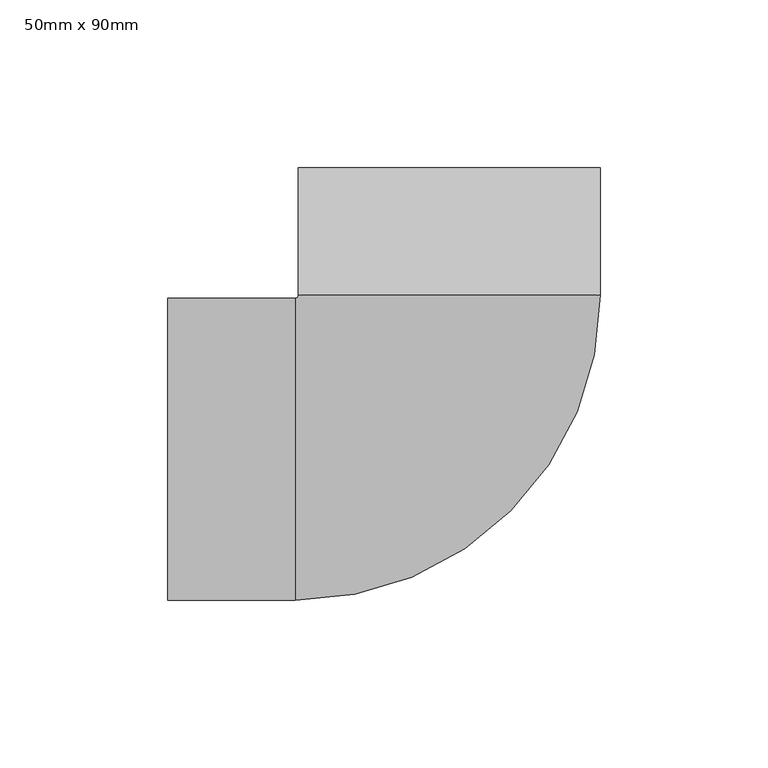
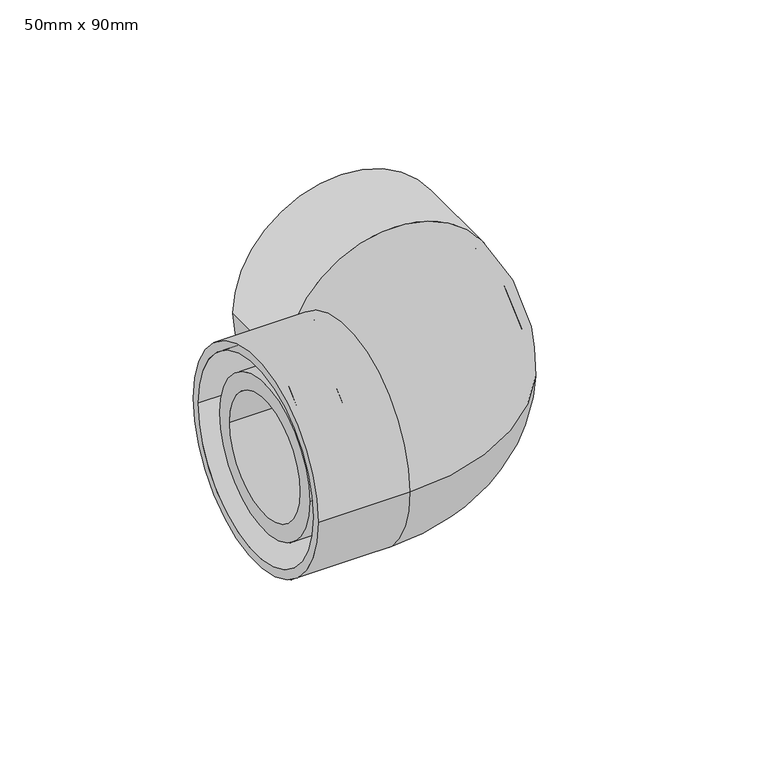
"""IFC4 building model written with IfcOpenShell, lengths in millimetres: pipe fitting geometry, Durapipe_PipeFittings_PLX_CloseFit_90Elbow : 50mm x 90mm."""

from ifc_helpers import new_model, si_unit, point, frame, origin, place, context, project, spatial, polyline, circle_curve, ellipse_curve, trimmed, source, transform, mapped, element, save
from ifc_brep_helpers import plane_surface, cylinder_surface, revolved_surface, advanced_brep


def pipe_fitting_50mm_x_90mm_390558eb(model_context):
    return source(origin(), model_context, "Body", "AdvancedBrep", [
        advanced_brep(
        [(-84.0, -45.0, 0.0), (-84.0, 45.0, 0.0), (-84.0, -41.3, 0.0), (-84.0, 41.3, 0.0), (-46.0, -45.0, 0.0), (-46.0, 45.0, 0.0), (-46.0, -41.3, 0.0), (-46.0, 41.3, 0.0), (-45.0, 46.0, 0.0), (45.0, 46.0, 0.0), (-41.3, 46.0, 0.0), (41.3, 46.0, 0.0), (45.0, 84.0, 0.0), (-45.0, 84.0, 0.0), (41.3, 84.0, 0.0), (-41.3, 84.0, 0.0)],
        [
            (0, 1, circle_curve(frame((-84.0, 0.0, 0.0), z_axis=(-1.0, 0.0, 0.0), x_axis=(0.0, 1.0, 0.0)), 45.0)),
            (1, 0, circle_curve(frame((-84.0, 0.0, 0.0), z_axis=(-1.0, 0.0, 0.0), x_axis=(0.0, 1.0, 0.0)), 45.0)),
            (2, 3, circle_curve(frame((-84.0, 0.0, 0.0), z_axis=(1.0, 0.0, 0.0), x_axis=(0.0, 1.0, 0.0)), 41.3)),
            (3, 2, circle_curve(frame((-84.0, 0.0, 0.0), z_axis=(1.0, 0.0, 0.0), x_axis=(0.0, 1.0, 0.0)), 41.3)),
            (0, 4),
            (4, 5, circle_curve(frame((-46.0, 0.0, 0.0), z_axis=(-1.0, 0.0, 0.0), x_axis=(0.0, 1.0, 0.0)), 45.0)),
            (5, 1),
            (5, 4, circle_curve(frame((-46.0, 0.0, 0.0), z_axis=(-1.0, 0.0, 0.0), x_axis=(0.0, 1.0, 0.0)), 45.0)),
            (2, 6),
            (6, 7, circle_curve(frame((-46.0, 0.0, 0.0), z_axis=(1.0, 0.0, 0.0), x_axis=(0.0, 1.0, 0.0)), 41.3)),
            (7, 3),
            (7, 6, circle_curve(frame((-46.0, 0.0, 0.0), z_axis=(1.0, 0.0, 0.0), x_axis=(0.0, 1.0, 0.0)), 41.3)),
            (8, 5, circle_curve(frame((-46.0, 46.0, 0.0), z_axis=(0.0, 0.0, -1.0), x_axis=(0.0, -1.0, 0.0)), 1.0)),
            (4, 9, circle_curve(frame((-46.0, 46.0, 0.0), z_axis=(0.0, 0.0, 1.0), x_axis=(0.0, -1.0, 0.0)), 91.0)),
            (9, 8, circle_curve(frame((0.0, 46.0, 0.0), z_axis=(0.0, -1.0, 0.0), x_axis=(-1.0, 0.0, 0.0)), 45.0)),
            (8, 9, circle_curve(frame((0.0, 46.0, 0.0), z_axis=(0.0, -1.0, 0.0), x_axis=(-1.0, 0.0, 0.0)), 45.0)),
            (10, 7, circle_curve(frame((-46.0, 46.0, 0.0), z_axis=(0.0, 0.0, -1.0), x_axis=(0.0, -1.0, 0.0)), 4.7)),
            (6, 11, circle_curve(frame((-46.0, 46.0, 0.0), z_axis=(0.0, 0.0, 1.0), x_axis=(0.0, -1.0, 0.0)), 87.3)),
            (11, 10, circle_curve(frame((0.0, 46.0, 0.0), z_axis=(0.0, 1.0, 0.0), x_axis=(-1.0, 0.0, 0.0)), 41.3)),
            (10, 11, circle_curve(frame((0.0, 46.0, 0.0), z_axis=(0.0, 1.0, 0.0), x_axis=(-1.0, 0.0, 0.0)), 41.3)),
            (12, 13, circle_curve(frame((0.0, 84.0, 0.0), z_axis=(0.0, 1.0, 0.0), x_axis=(-1.0, 0.0, 0.0)), 45.0)),
            (13, 12, circle_curve(frame((0.0, 84.0, 0.0), z_axis=(0.0, 1.0, 0.0), x_axis=(-1.0, 0.0, 0.0)), 45.0)),
            (14, 15, circle_curve(frame((0.0, 84.0, 0.0), z_axis=(0.0, -1.0, 0.0), x_axis=(-1.0, 0.0, 0.0)), 41.3)),
            (15, 14, circle_curve(frame((0.0, 84.0, 0.0), z_axis=(0.0, -1.0, 0.0), x_axis=(-1.0, 0.0, 0.0)), 41.3)),
            (9, 12),
            (13, 8),
            (11, 14),
            (15, 10),
        ],
        [
            plane_surface(frame((-84.0, 0.0, 0.0), z_axis=(-1.0, 0.0, 0.0), x_axis=(0.0, 0.0, 1.0))),
            cylinder_surface(frame((-84.0, 0.0, 0.0), z_axis=(-1.0, 0.0, 0.0), x_axis=(0.0, 1.0, 0.0)), 45.0),
            revolved_surface(polyline([(-46.0, 41.3, 0.0), (-84.0, 41.3, 0.0)]), (-84.0, 0.0, 0.0), (1.0, 0.0, 0.0)),
            revolved_surface(trimmed(ellipse_curve(frame((-46.0, 0.0, 0.0), z_axis=(-1.0, 0.0, 0.0), x_axis=(0.0, 1.0, 0.0)), 45.0, 45.0), [point((-46.0, -45.0, 0.0))], [point((-46.0, 45.0, 0.0))], True, "CARTESIAN"), (-46.0, 46.0, 0.0), (0.0, 0.0, 1.0)),
            revolved_surface(trimmed(ellipse_curve(frame((-46.0, 0.0, 0.0), z_axis=(-1.0, 0.0, 0.0), x_axis=(0.0, 1.0, 0.0)), 45.0, 45.0), [point((-46.0, 45.0, 0.0))], [point((-46.0, -45.0, 0.0))], True, "CARTESIAN"), (-46.0, 46.0, 0.0), (0.0, 0.0, 1.0)),
            revolved_surface(trimmed(ellipse_curve(frame((-46.0, 0.0, 0.0), z_axis=(1.0, 0.0, 0.0), x_axis=(0.0, 1.0, 0.0)), 41.3, 41.3), [point((-46.0, -41.3, 0.0))], [point((-46.0, 41.3, 0.0))], True, "CARTESIAN"), (-46.0, 46.0, 0.0), (0.0, 0.0, 1.0)),
            revolved_surface(trimmed(ellipse_curve(frame((-46.0, 0.0, 0.0), z_axis=(1.0, 0.0, 0.0), x_axis=(0.0, 1.0, 0.0)), 41.3, 41.3), [point((-46.0, 41.3, 0.0))], [point((-46.0, -41.3, 0.0))], True, "CARTESIAN"), (-46.0, 46.0, 0.0), (0.0, 0.0, 1.0)),
            plane_surface(frame((0.0, 84.0, 0.0), z_axis=(0.0, 1.0, 0.0), x_axis=(0.0, 0.0, 1.0))),
            cylinder_surface(frame((0.0, 46.0, 0.0), z_axis=(0.0, -1.0, 0.0), x_axis=(-1.0, 0.0, 0.0)), 45.0),
            revolved_surface(polyline([(-41.3, 84.0, 0.0), (-41.3, 46.0, 0.0)]), (0.0, 46.0, 0.0), (0.0, 1.0, 0.0)),
        ],
        [
            (0, [[1, 2], [3, 4]]),
            (1, [[-1, 5, 6, 7]]),
            (1, [[-2, -7, 8, -5]]),
            (2, [[-3, 9, 10, 11]]),
            (2, [[-4, -11, 12, -9]]),
            (3, [[13, -6, 14, 15]]),
            (4, [[-14, -8, -13, 16]]),
            (5, [[17, -10, 18, 19]]),
            (6, [[-18, -12, -17, 20]]),
            (7, [[21, 22], [23, 24]]),
            (8, [[-15, 25, -22, 26]]),
            (8, [[-16, -26, -21, -25]]),
            (9, [[-19, 27, -24, 28]]),
            (9, [[-20, -28, -23, -27]]),
        ],
    ),
        advanced_brep(
        [(-33.25, 32.25, 0.0), (-33.25, -32.25, 0.0), (32.25, 33.25, 0.0), (-32.25, 33.25, 0.0), (-80.3, -32.25, 0.0), (-80.3, 32.25, 0.0), (-80.3, -25.25, 0.0), (-80.3, 25.25, 0.0), (-32.25, 80.3, 0.0), (32.25, 80.3, 0.0), (0.0, 80.3, 25.25), (0.0, 80.3, -25.25), (-38.3, 25.25, 0.0), (-38.3, -25.25, 0.0), (0.0, 38.3, -25.25), (0.0, 38.3, 25.25)],
        [
            (0, 1, circle_curve(frame((-33.25, 0.0, 0.0), z_axis=(1.0, 0.0, 0.0), x_axis=(0.0, 1.0, 0.0)), 32.25)),
            (1, 2, circle_curve(frame((-33.25, 33.25, 0.0), z_axis=(0.0, 0.0, 1.0), x_axis=(0.0, -1.0, 0.0)), 65.5)),
            (2, 3, circle_curve(frame((0.0, 33.25, 0.0), z_axis=(0.0, -1.0, 0.0), x_axis=(-1.0, 0.0, 0.0)), 32.25)),
            (3, 0, circle_curve(frame((-33.25, 33.25, 0.0), z_axis=(0.0, 0.0, -1.0), x_axis=(0.0, -1.0, 0.0)), 1.0)),
            (1, 0, circle_curve(frame((-33.25, 0.0, 0.0), z_axis=(1.0, 0.0, 0.0), x_axis=(0.0, 1.0, 0.0)), 32.25)),
            (3, 2, circle_curve(frame((0.0, 33.25, 0.0), z_axis=(0.0, -1.0, 0.0), x_axis=(-1.0, 0.0, 0.0)), 32.25)),
            (4, 5, circle_curve(frame((-80.3, 0.0, 0.0), z_axis=(-1.0, 0.0, 0.0), x_axis=(0.0, 1.0, 0.0)), 32.25)),
            (5, 4, circle_curve(frame((-80.3, 0.0, 0.0), z_axis=(-1.0, 0.0, 0.0), x_axis=(0.0, 1.0, 0.0)), 32.25)),
            (6, 7, circle_curve(frame((-80.3, 0.0, 0.0), z_axis=(1.0, 0.0, 0.0), x_axis=(0.0, -1.0, 0.0)), 25.25)),
            (7, 6, circle_curve(frame((-80.3, 0.0, 0.0), z_axis=(1.0, 0.0, 0.0), x_axis=(0.0, -1.0, 0.0)), 25.25)),
            (8, 9, circle_curve(frame((0.0, 80.3, 0.0), z_axis=(0.0, 1.0, 0.0), x_axis=(-1.0, 0.0, 0.0)), 32.25)),
            (9, 8, circle_curve(frame((0.0, 80.3, 0.0), z_axis=(0.0, 1.0, 0.0), x_axis=(-1.0, 0.0, 0.0)), 32.25)),
            (10, 11, circle_curve(frame((0.0, 80.3, 0.0), z_axis=(0.0, -1.0, 0.0), x_axis=(0.0, 0.0, 1.0)), 25.25)),
            (11, 10, circle_curve(frame((0.0, 80.3, 0.0), z_axis=(0.0, -1.0, 0.0), x_axis=(0.0, 0.0, 1.0)), 25.25)),
            (0, 5),
            (4, 1),
            (2, 9),
            (8, 3),
            (12, 13, circle_curve(frame((-38.3, 0.0, 0.0), z_axis=(-1.0, 0.0, 0.0), x_axis=(0.0, -1.0, 0.0)), 25.25)),
            (13, 12, circle_curve(frame((-38.3, 0.0, 0.0), z_axis=(-1.0, 0.0, 0.0), x_axis=(0.0, -1.0, 0.0)), 25.25)),
            (12, 7),
            (6, 13),
            (14, 15, circle_curve(frame((0.0, 38.3, 0.0), z_axis=(0.0, 1.0, 0.0), x_axis=(0.0, 0.0, 1.0)), 25.25)),
            (15, 14, circle_curve(frame((0.0, 38.3, 0.0), z_axis=(0.0, 1.0, 0.0), x_axis=(0.0, 0.0, 1.0)), 25.25)),
            (14, 11),
            (10, 15),
        ],
        [
            revolved_surface(trimmed(ellipse_curve(frame((-33.25, 0.0, 0.0), z_axis=(-1.0, 0.0, 0.0), x_axis=(0.0, 1.0, 0.0)), 32.25, 32.25), [point((-33.25, -32.25, 0.0))], [point((-33.25, 32.25, 0.0))], True, "CARTESIAN"), (-33.25, 33.25, 0.0), (0.0, 0.0, 1.0)),
            revolved_surface(trimmed(ellipse_curve(frame((-33.25, 0.0, 0.0), z_axis=(-1.0, 0.0, 0.0), x_axis=(0.0, 1.0, 0.0)), 32.25, 32.25), [point((-33.25, 32.25, 0.0))], [point((-33.25, -32.25, 0.0))], True, "CARTESIAN"), (-33.25, 33.25, 0.0), (0.0, 0.0, 1.0)),
            plane_surface(frame((-80.3, 0.0, 0.0), z_axis=(-1.0, 0.0, 0.0), x_axis=(0.0, 0.0, 1.0))),
            plane_surface(frame((0.0, 80.3, 0.0), z_axis=(0.0, 1.0, 0.0), x_axis=(0.0, 0.0, 1.0))),
            cylinder_surface(frame((-80.3, 0.0, 0.0), z_axis=(-1.0, 0.0, 0.0), x_axis=(0.0, 1.0, 0.0)), 32.25),
            cylinder_surface(frame((0.0, 33.25, 0.0), z_axis=(0.0, -1.0, 0.0), x_axis=(-1.0, 0.0, 0.0)), 32.25),
            plane_surface(frame((-38.3, -25.25, 0.0), z_axis=(-1.0, 0.0, 0.0), x_axis=(0.0, 0.0, -1.0))),
            revolved_surface(polyline([(-80.3, -25.25, 0.0), (-38.3, -25.25, 0.0)]), (-38.3, 0.0, 0.0), (-1.0, 0.0, 0.0)),
            plane_surface(frame((0.0, 38.3, 25.25), z_axis=(0.0, 1.0, 0.0), x_axis=(-1.0, 0.0, 0.0))),
            revolved_surface(polyline([(0.0, 80.3, 25.25), (0.0, 38.3, 25.25)]), (0.0, 38.3, 0.0), (0.0, 1.0, 0.0)),
        ],
        [
            (0, [[1, 2, 3, 4]]),
            (1, [[5, -4, 6, -2]]),
            (2, [[7, 8], [9, 10]]),
            (3, [[11, 12], [13, 14]]),
            (4, [[-1, 15, -7, 16]]),
            (4, [[-5, -16, -8, -15]]),
            (5, [[-3, 17, -11, 18]]),
            (5, [[-6, -18, -12, -17]]),
            (6, [[19, 20]]),
            (7, [[-19, 21, -9, 22]]),
            (7, [[-20, -22, -10, -21]]),
            (8, [[23, 24]]),
            (9, [[-23, 25, -13, 26]]),
            (9, [[-24, -26, -14, -25]]),
        ],
    ),
    ])


if __name__ == "__main__":
    model = new_model("IFC4")
    model_context = context("Model", 3, world=origin())
    ifc_project = project(units=[si_unit("LENGTHUNIT", "METRE", prefix="MILLI")], contexts=[model_context])
    site = spatial("IfcSite", under=ifc_project)
    building = spatial("IfcBuilding", under=site)
    placement = place(None, origin())
    pipe_fitting_50mm_x_90mm_shape = pipe_fitting_50mm_x_90mm_390558eb(model_context)
    element("IfcPipeFitting", 1, ObjectType="Durapipe_PipeFittings_PLX_CloseFit_90Elbow : 50mm x 90mm", at=placement, inside=building, context=model_context, shape_type="MappedRepresentation", body=[
        mapped(pipe_fitting_50mm_x_90mm_shape, transform((0.0, 0.0, 0.0), x_axis=(1.0, 0.0, 0.0), y_axis=(0.0, 1.0, 0.0), z_axis=(0.0, 0.0, 1.0))),
    ])
    save(model, "model.ifc")
